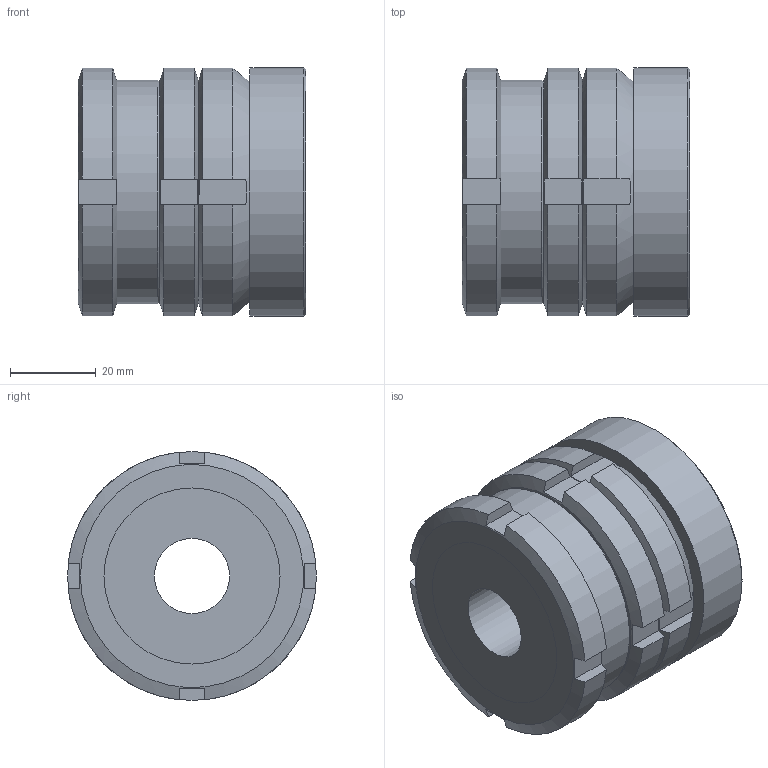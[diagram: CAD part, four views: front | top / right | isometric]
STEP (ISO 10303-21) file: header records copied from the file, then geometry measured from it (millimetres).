
FILE_DESCRIPTION( ( 'STEP AP203' ), '1' );
FILE_NAME( 'C:/Temp/Ganter_Step_05_03_2020/data/3_2/gn350_5/gn350_5_st/Levelling set GN 350.5-58-17,5-53-ST (0-0).stp', '2020-03-13T05:28:32', ( 'License CC BY-ND 4.0' ), ( 'CADENAS' ), ' ', 'PARTsolutions', ' ' );
FILE_SCHEMA( ( 'CONFIG_CONTROL_DESIGN' ) );
Length unit declared in the file: millimetre
Products named in the file (5): Levelling set GN 350.5-58-17,5-53-ST (0-0); _Levelling set GN 350.5-58-17,5-53-ST-G; _Levelling set GN 350.5-58-17,5-53-ST-K; _Levelling set GN 350.5-58-17,5-53-ST-P(0); _Levelling set GN 350.5-58-17,5-53-ST-KM
Assembly tree (4 placements, depth 2):
  Levelling set GN 350.5-58-17,5-53-ST (0-0)
    _Levelling set GN 350.5-58-17,5-53-ST-G
    _Levelling set GN 350.5-58-17,5-53-ST-K
    _Levelling set GN 350.5-58-17,5-53-ST-P(0)
    _Levelling set GN 350.5-58-17,5-53-ST-KM
Bounding box: 53 x 58 x 58 mm (x, y, z)
Volume: 116124.1 mm3; surface area: 34712.9 mm2
Topology: 4 solids, 4 shells, 85 faces, 211 edges, 140 vertices
Faces by surface type: plane 50, cylinder 24, cone 9, sphere 2
Full cylindrical faces by diameter (mm): 17.5 x1, 31.5 x1, 33.485 x1, 34.5 x1, 38.376 x1, 38.917 x1, 39 x1, 40 x1, 41 x2, 52 x1, 58 x1
Entity records: 2696 total; most frequent: CARTESIAN_POINT 698, DIRECTION 368, ORIENTED_EDGE 356, EDGE_CURVE 178, AXIS2_PLACEMENT_3D 160, VERTEX_POINT 130, EDGE_LOOP 122, FACE_OUTER_BOUND 99
